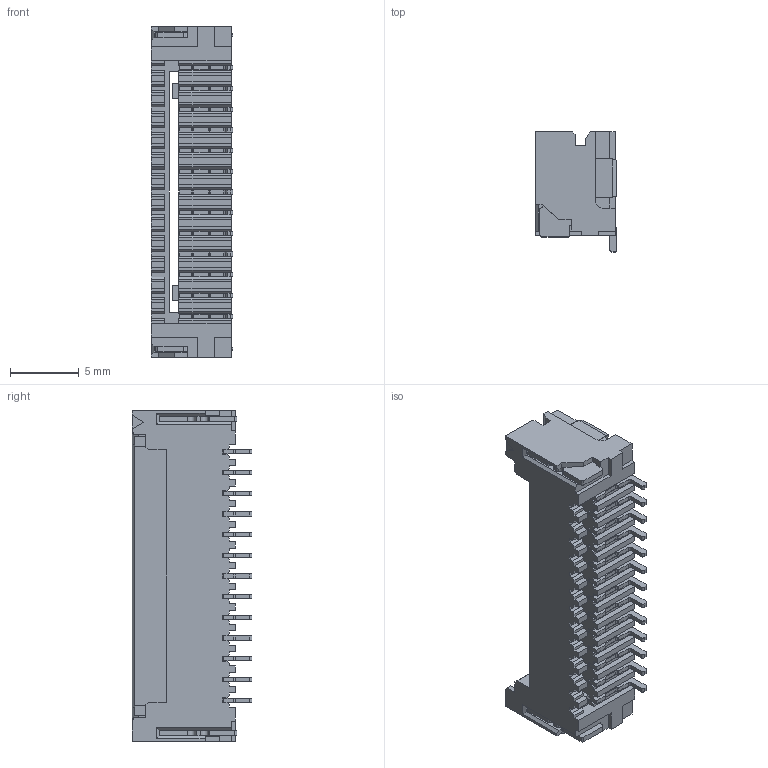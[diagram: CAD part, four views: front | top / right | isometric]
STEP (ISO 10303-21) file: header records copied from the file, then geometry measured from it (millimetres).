
FILE_DESCRIPTION (( 'STEP AP203' ), '1' );
FILE_NAME ('HC-ZE-13AWT（卧贴-HCTL）.STEP', '2024-08-24T07:00:23', ( '' ), ( '' ), 'SwSTEP 2.0', 'SolidWorks 2022', '' );
FILE_SCHEMA (( 'CONFIG_CONTROL_DESIGN' ));
Length unit declared in the file: millimetre
Products named in the file (1): HC-ZE-13AWT（卧贴-HCTL）
Bounding box: 5.9 x 8.7 x 24 mm (x, y, z)
Volume: 445.8 mm3; surface area: 1767.1 mm2
Topology: 14 solids, 14 shells, 1160 faces, 3477 edges, 2302 vertices
Faces by surface type: plane 893, cylinder 267
Entity records: 38898 total; most frequent: ORIENTED_EDGE 6954, CARTESIAN_POINT 6940, DIRECTION 6333, EDGE_CURVE 3477, VECTOR 2943, LINE 2943, VERTEX_POINT 2302, AXIS2_PLACEMENT_3D 1695
